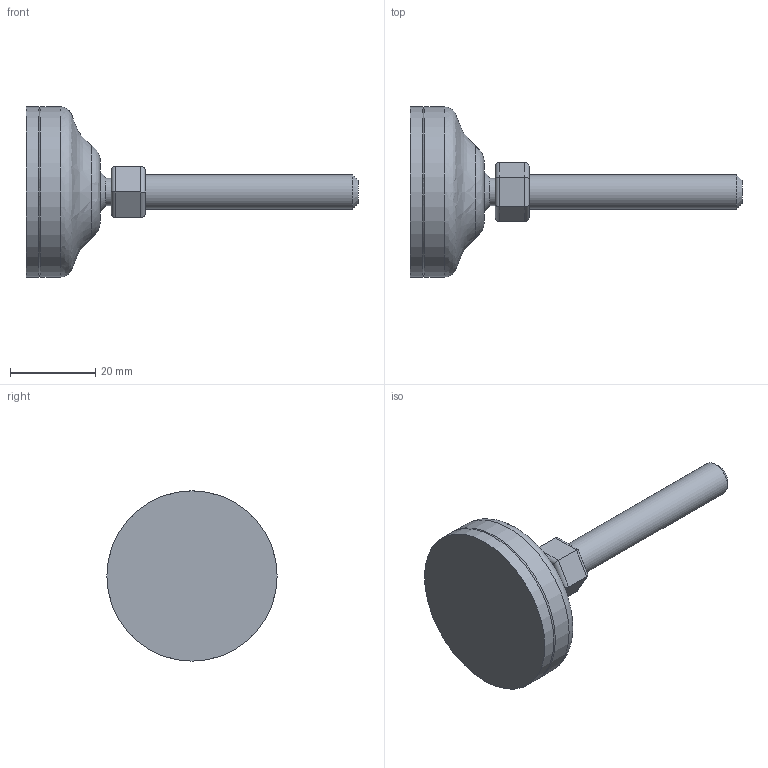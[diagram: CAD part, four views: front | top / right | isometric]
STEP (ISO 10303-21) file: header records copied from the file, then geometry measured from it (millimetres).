
FILE_DESCRIPTION(('STEP AP203'),'2;1');
FILE_NAME('10441.stp','2016-01-12T17:09:22',(''),(''),'2008.1.107','THINKDESIGN','');
FILE_SCHEMA(('CONFIG_CONTROL_DESIGN'));
Length unit declared in the file: millimetre
Bounding box: 78 x 40 x 40 mm (x, y, z)
Volume: 20297.3 mm3; surface area: 8445.4 mm2
Topology: 5 solids, 5 shells, 38 faces, 80 edges, 52 vertices
Faces by surface type: plane 16, cylinder 16, bspline 6
Full cylindrical faces by diameter (mm): 6.437 x1, 8 x1, 40 x2
Entity records: 1348 total; most frequent: CARTESIAN_POINT 455, DIRECTION 165, ORIENTED_EDGE 160, EDGE_CURVE 80, AXIS2_PLACEMENT_3D 65, VERTEX_POINT 52, EDGE_LOOP 38, FACE_OUTER_BOUND 38
